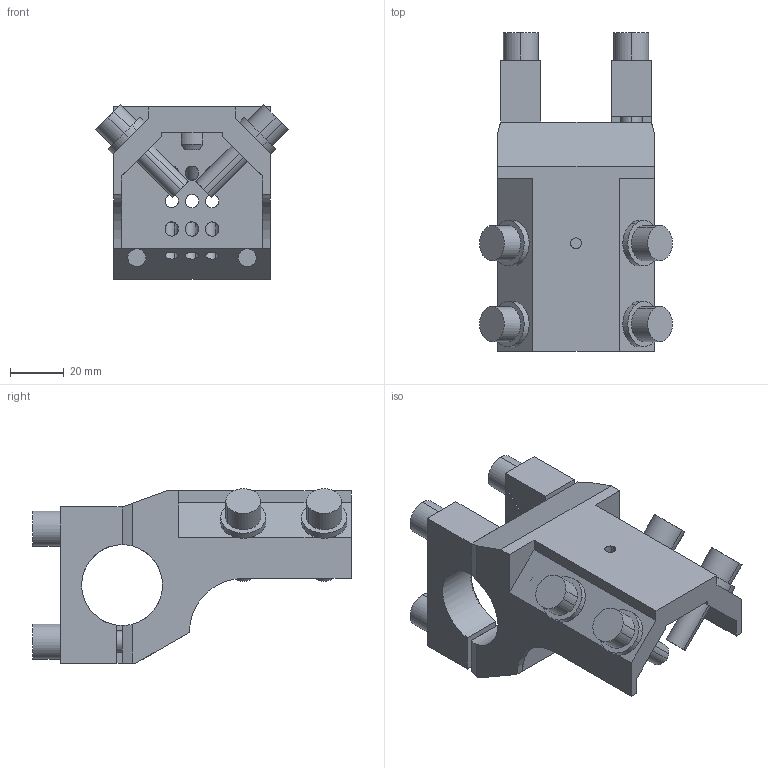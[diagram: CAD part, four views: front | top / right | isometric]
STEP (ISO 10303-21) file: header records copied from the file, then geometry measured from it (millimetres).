
FILE_DESCRIPTION(('STEP AP214'),'1');
FILE_NAME('EGT107_1705078_50RD30_T90.CATPart.stp','2015-09-14T13:08:15',('3D-Tool'),(' '),'Spatial InterOp 3D',' ',' ');
FILE_SCHEMA(('automotive_design'));
Length unit declared in the file: millimetre
Products named in the file (12): EGT107_1705078_50RD30_T90|EGT107_50RD30_T90|Bohrbearbeitung; EGT107_1705078_50RD30_T90|EGT205_SCHELLE_RD30_1|Assemble.99; EGT107_1705078_50RD30_T90|EGT205_SCHELLE_RD30_2|Assemble.100; 1; 2; 3; 4; EGT107_1705078_50RD30_T90|EGT_212_ZENTRIERSTIFT|Chamfer.3; 5; 6; 7; 8
Bounding box: 71.53 x 118.1 x 64.77 mm (x, y, z)
Volume: 141572.3 mm3; surface area: 53390.9 mm2
Topology: 12 solids, 12 shells, 399 faces, 1068 edges, 708 vertices
Faces by surface type: plane 211, cylinder 186, cone 2
Entity records: 18029 total; most frequent: CARTESIAN_POINT 4567, ORIENTED_EDGE 2136, DIRECTION 2006, EDGE_CURVE 1068, AXIS2_PLACEMENT_3D 723, VERTEX_POINT 708, LINE 560, VECTOR 560
